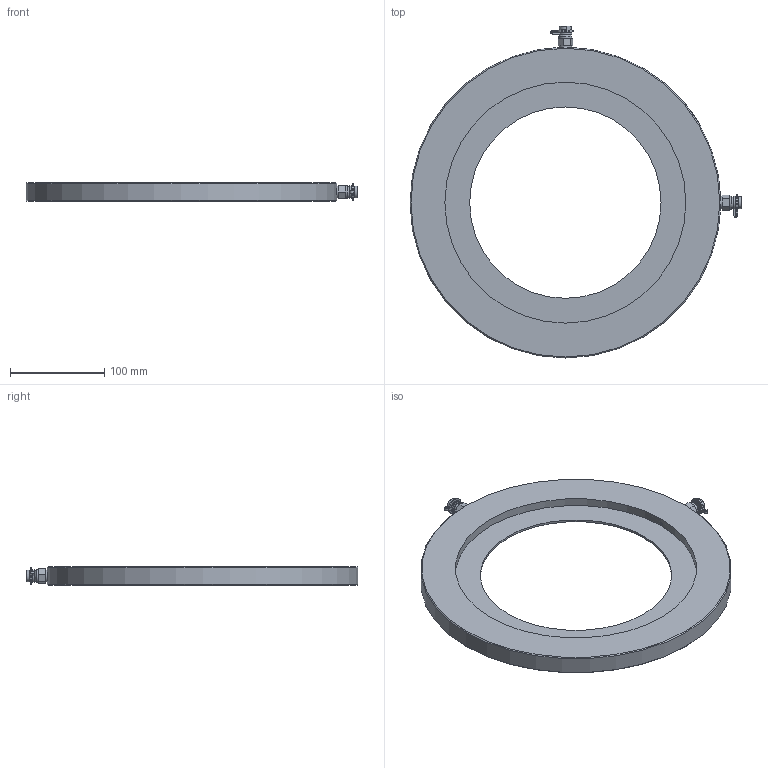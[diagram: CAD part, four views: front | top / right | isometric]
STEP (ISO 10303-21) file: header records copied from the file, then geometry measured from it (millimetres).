
FILE_DESCRIPTION((''),'2;1');
FILE_NAME('P:\Fastrack\53972_CRANE 3D\Workspace\HATTERSLEY\Fig-2000_DN250\Fig-2000_DN250.stp','2011-03-08T10:17:50',('btaylor'),(''),'Autodesk Inventor 2008','Autodesk Inventor 2008','');
FILE_SCHEMA(('AUTOMOTIVE_DESIGN { 1 0 10303 214 1 1 1 1 }'));
Length unit declared in the file: millimetre
Products named in the file (1): Fig-2000_DN250
Bounding box: 352.6 x 352.6 x 20 mm (x, y, z)
Volume: 730358.9 mm3; surface area: 145167.6 mm2
Topology: 1 solids, 1 shells, 109 faces, 256 edges, 166 vertices
Faces by surface type: plane 72, cylinder 27, cone 8, bspline 2
Full cylindrical faces by diameter (mm): 3.2 x2, 7.4 x2, 11 x2, 12.7 x2, 13.7 x2, 203.2 x1, 256 x2, 330 x1
Entity records: 3942 total; most frequent: CARTESIAN_POINT 1431, DIRECTION 478, ORIENTED_EDGE 440, EDGE_CURVE 220, AXIS2_PLACEMENT_3D 184, EDGE_LOOP 156, VERTEX_POINT 154, VECTOR 110
